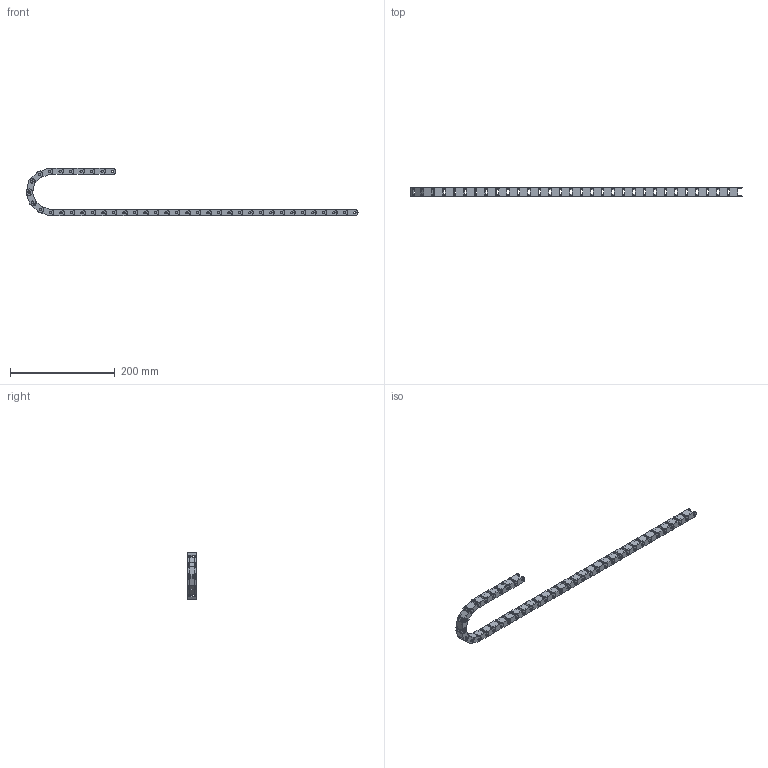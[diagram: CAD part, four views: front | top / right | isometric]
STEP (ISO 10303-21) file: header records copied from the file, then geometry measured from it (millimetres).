
FILE_DESCRIPTION(/* description */ (''),/* implementation_level */ '2;1');
FILE_NAME(/* name */ 'X-C15E~1',/* time_stamp */ '2014-02-14T19:46:45+01:00',/* author */ (''),/* organization */ (''),/* preprocessor_version */ 'ST-DEVELOPER v14',/* originating_system */ '',/* authorisation */ '');
FILE_SCHEMA (('AUTOMOTIVE_DESIGN'));
Length unit declared in the file: millimetre
Products named in the file (2): Document; cable carrier link
Assembly tree (41 placements, depth 2):
  Document
    cable carrier link  x41
Bounding box: 632.77 x 16 x 91.05 mm (x, y, z)
Volume: 88702.9 mm3; surface area: 100883.4 mm2
Topology: 41 solids, 41 shells, 1763 faces, 4428 edges, 2706 vertices
Faces by surface type: plane 1107, bspline 656
Entity records: 3147 total; most frequent: CARTESIAN_POINT 1413, B_SPLINE_CURVE_WITH_KNOTS 250, ORIENTED_EDGE 216, PCURVE 216, DEFINITIONAL_REPRESENTATION 216, DIRECTION 113, SURFACE_CURVE 108, EDGE_CURVE 108
